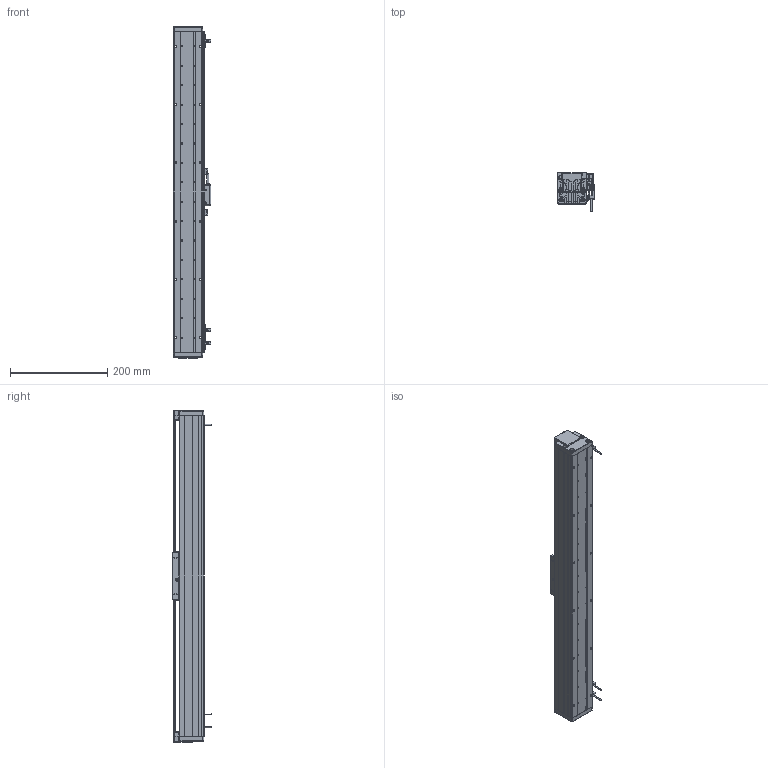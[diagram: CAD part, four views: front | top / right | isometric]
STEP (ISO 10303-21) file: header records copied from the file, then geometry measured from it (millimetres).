
FILE_DESCRIPTION (( 'STEP AP203' ), '1' );
FILE_NAME ('DA-A60-B1-T520-C010-0.2 眻盄萇儂.STEP', '2025-08-13T01:57:08', ( '' ), ( '' ), 'SwSTEP 2.0', 'SolidWorks 2019', '' );
FILE_SCHEMA (( 'CONFIG_CONTROL_DESIGN' ));
Length unit declared in the file: millimetre
Products named in the file (21): DA60-YT-B1-HT-B-01 珨极趙賑雄怢啣; 复件 DA60-GT-T-00 底座钢轨^AU60-L 底座导轨; 葩璃 AKM01-W030-TRL^DA-A60-B1-T-C010-0.2-N 眻盄萇儂; AU60-V 幗紩賑怢; DA60-B1-HT-B-03 賑雄怢啣; 复件 DA60-DG-H-N-00 端盖^DA-A60-B1-T-C010-0.2-N 直线电机; 复件 DA60-B1-GT-00 滑块钢轨^DA60-YT-B1-HT-B-01 一体化滑动台板; 葩璃 PM-T45^DA-A60-B1-T-C010-0.2-N 眻盄萇儂; 复件 BAKM01-W030-C1-TP-0.2 直线电机动子^DA-A60-B1-T-C010-0.2-N 直线电机; 复件 纯铜油杯 6x6mm^AU60-V 滚珠滑台; 复件 XD-U-02  磁栅尺^DA-A60-B1-T-C010-0.2-N 直线电机; 复件 DA60-DMT-DTJ-00 读数头支架^DA-A60-B1-T-C010-0.2-N 直线电机; 复件 DA-A60-GYP-DMT-00 光电感应片^DA-A60-B1-T-C010-0.2-N 直线电机(默认); 葩璃 DA60-HK-DP-01 結え^AU60-V 幗紩賑怢; 葩璃 DMT-010 1米m 0.2M^DA-A60-B1-T-C010-0.2-N 眻盄萇儂; DA60-T-002-00  裔啣; AU60-L 菁釱絳寢; IU-AU60-L-00 菁釱(660); 复件 DA60-XJ-00 橡胶挡块^DA-A60-B1-T-C010-0.2-N 直线电机; DA-A60-B1-T520-C010-0.2 眻盄萇儂; 复件 六角薄螺母 M3^DA-A60-B1-T-C010-0.2-N 直线电机(GB_FASTENER_NUT_STNAB M3-C)
Assembly tree (33 placements, depth 4):
  DA-A60-B1-T520-C010-0.2 眻盄萇儂
    AU60-L 菁釱絳寢
      IU-AU60-L-00 菁釱(660)
      复件 DA60-GT-T-00 底座钢轨^AU60-L 底座导轨  x2
    AU60-V 幗紩賑怢
      DA60-YT-B1-HT-B-01 珨极趙賑雄怢啣
        DA60-B1-HT-B-03 賑雄怢啣
        复件 DA60-B1-GT-00 滑块钢轨^DA60-YT-B1-HT-B-01 一体化滑动台板  x2
      葩璃 DA60-HK-DP-01 結え^AU60-V 幗紩賑怢  x2
      复件 纯铜油杯 6x6mm^AU60-V 滚珠滑台
    复件 DA-A60-GYP-DMT-00 光电感应片^DA-A60-B1-T-C010-0.2-N 直线电机(默认)  x2
    复件 DA60-DMT-DTJ-00 读数头支架^DA-A60-B1-T-C010-0.2-N 直线电机
    葩璃 DMT-010 1米m 0.2M^DA-A60-B1-T-C010-0.2-N 眻盄萇儂
    复件 BAKM01-W030-C1-TP-0.2 直线电机动子^DA-A60-B1-T-C010-0.2-N 直线电机
    复件 DA60-XJ-00 橡胶挡块^DA-A60-B1-T-C010-0.2-N 直线电机  x2
    复件 DA60-DG-H-N-00 端盖^DA-A60-B1-T-C010-0.2-N 直线电机  x2
    DA60-T-002-00  裔啣
    葩璃 AKM01-W030-TRL^DA-A60-B1-T-C010-0.2-N 眻盄萇儂
    葩璃 PM-T45^DA-A60-B1-T-C010-0.2-N 眻盄萇儂  x3
    复件 XD-U-02  磁栅尺^DA-A60-B1-T-C010-0.2-N 直线电机
    复件 六角薄螺母 M3^DA-A60-B1-T-C010-0.2-N 直线电机(GB_FASTENER_NUT_STNAB M3-C)  x6
Bounding box: 76.95 x 80 x 684 mm (x, y, z)
Volume: 1434286.3 mm3; surface area: 520747.2 mm2
Topology: 35 solids, 37 shells, 2847 faces, 7272 edges, 4397 vertices
Faces by surface type: cylinder 1074, plane 939, bspline 577, cone 248, torus 8, sphere 1
Entity records: 70381 total; most frequent: CARTESIAN_POINT 22774, ORIENTED_EDGE 9800, DIRECTION 8949, EDGE_CURVE 4900, AXIS2_PLACEMENT_3D 3226, VERTEX_POINT 3068, VECTOR 2497, LINE 2497
